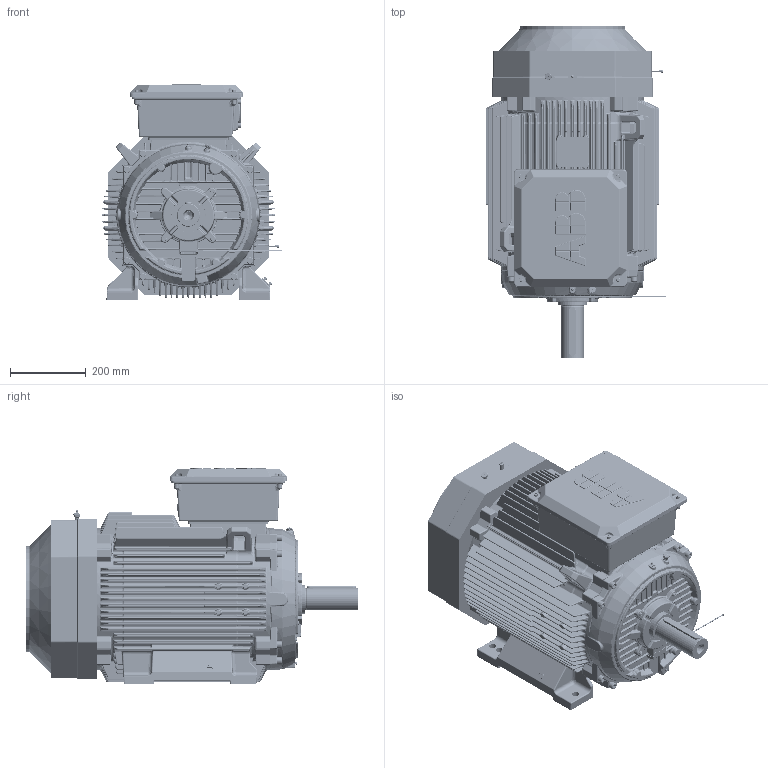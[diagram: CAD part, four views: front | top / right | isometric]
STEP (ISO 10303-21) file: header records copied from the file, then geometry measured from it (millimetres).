
FILE_DESCRIPTION(/* description */ (''),/* implementation_level */ '2;1');
FILE_NAME(/* name */ '3GZF500022-755_STEP.stp',/* time_stamp */ '2018-10-18T11:34:26+02:00',/* author */ (''),/* organization */ (''),/* preprocessor_version */ 'ST-DEVELOPER v16',/* originating_system */ 'SIEMENS PLM Software NX 10.0',/* authorisation */ '');
FILE_SCHEMA (('AUTOMOTIVE_DESIGN { 1 0 10303 214 3 1 1 1 }'));
Products named in the file (1): SEVE44743FBCq9d1
Bounding box: 478.74 x 879 x 572.72 mm (x, y, z)
Volume: 114857917.5 mm3; surface area: 4631028.1 mm2
Topology: 6 solids, 41 shells, 11321 faces, 27141 edges, 15259 vertices
Faces by surface type: bspline 4699, cylinder 2933, plane 2192, sphere 680, cone 506, torus 303, extrusion 6, revolution 2
Full cylindrical faces by diameter (mm): 2 x1, 3 x2, 3.3 x1, 4 x1, 5 x2, 5.3 x2, 5.4 x1, 6 x17, 6.4 x4, 7 x7, 8 x5, 10 x15, 11 x2, 11.922 x4, 12 x28, 13 x4, 13.5 x8, 16 x2, 17 x4, 18 x16, 18.5 x6, 24 x2, 60 x2, 63 x2, 65.2 x1, 66 x1, 68 x2, 76 x1, 280 x2, 356.695 x1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
Entity records: 439972 total; most frequent: CARTESIAN_POINT 210213, ORIENTED_EDGE 51942, DIRECTION 36019, EDGE_CURVE 25971, VERTEX_POINT 15149, AXIS2_PLACEMENT_3D 14505, EDGE_LOOP 11821, ADVANCED_FACE 11317
